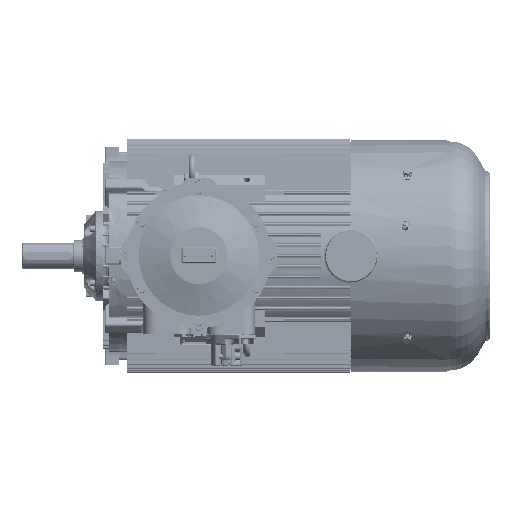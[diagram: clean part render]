
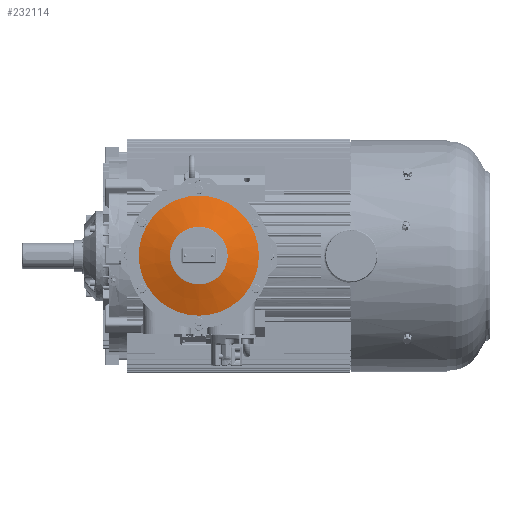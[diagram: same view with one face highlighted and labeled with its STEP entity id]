
A CAD part, top view. The second image highlights one B-rep face of the part: STEP entity #232114.
In plain terms, the highlighted conical face has half-angle 73.102 degrees and reference radius 125.668 mm.
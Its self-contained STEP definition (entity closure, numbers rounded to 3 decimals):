
#1312=CONICAL_SURFACE('',#243846,125.668,1.276);
#42812=CIRCLE('',#243837,125.668);
#42821=CIRCLE('',#243847,60.315);
#78237=ORIENTED_EDGE('',*,*,#109778,.F.);
#78238=ORIENTED_EDGE('',*,*,#109787,.T.);
#109778=EDGE_CURVE('',#128119,#128119,#42812,.T.);
#109787=EDGE_CURVE('',#128128,#128128,#42821,.T.);
#128119=VERTEX_POINT('',#339921);
#128128=VERTEX_POINT('',#339940);
#142726=EDGE_LOOP('',(#78237));
#142727=EDGE_LOOP('',(#78238));
#155125=FACE_BOUND('',#142726,.T.);
#155126=FACE_BOUND('',#142727,.T.);
#232114=ADVANCED_FACE('',(#155125,#155126),#1312,.T.);
#243837=AXIS2_PLACEMENT_3D('',#339920,#279347,#279348);
#243846=AXIS2_PLACEMENT_3D('',#339938,#279365,#279366);
#243847=AXIS2_PLACEMENT_3D('',#339939,#279367,#279368);
#279347=DIRECTION('',(0.,0.,-1.));
#279348=DIRECTION('',(0.,1.,0.));
#279365=DIRECTION('',(0.,0.,-1.));
#279366=DIRECTION('',(0.,1.,0.));
#279367=DIRECTION('',(0.,0.,-1.));
#279368=DIRECTION('',(0.,1.,0.));
#339920=CARTESIAN_POINT('',(176.,0.,445.));
#339921=CARTESIAN_POINT('',(176.,125.668,445.));
#339938=CARTESIAN_POINT('',(176.,0.,445.));
#339939=CARTESIAN_POINT('',(176.,0.,464.853));
#339940=CARTESIAN_POINT('',(176.,60.315,464.853));
